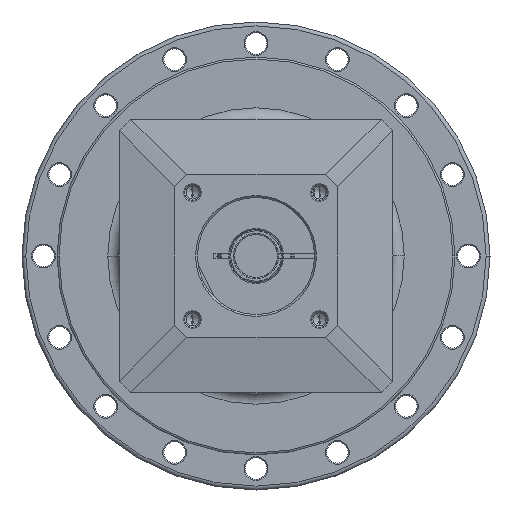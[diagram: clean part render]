
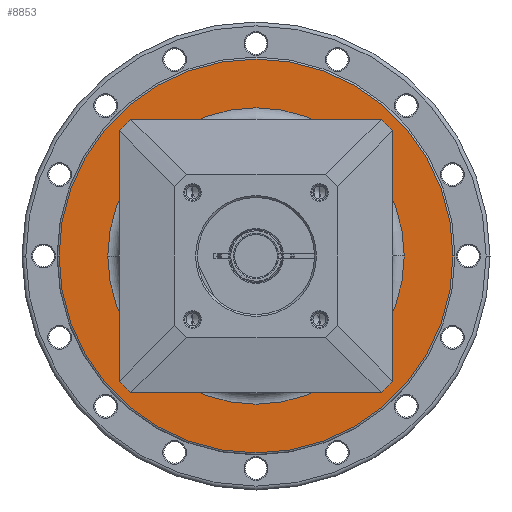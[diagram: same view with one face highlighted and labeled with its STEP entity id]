
A CAD part, left-side view. The second image highlights one B-rep face of the part: STEP entity #8853.
In plain terms, the highlighted planar face has unit normal (-1, 0, 0) as drawn and (1, 0, 0) by its records, which use the part's own axes.
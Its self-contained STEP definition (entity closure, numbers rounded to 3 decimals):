
#8406=CARTESIAN_POINT('',(-33.5,0.,0.));
#8407=DIRECTION('',(-1.,0.,0.));
#8408=DIRECTION('',(0.,-1.,0.));
#8409=AXIS2_PLACEMENT_3D('',#8406,#8407,#8408);
#8411=CARTESIAN_POINT('',(-33.5,0.,0.));
#8412=DIRECTION('',(-1.,0.,0.));
#8413=DIRECTION('',(0.,1.,0.));
#8414=AXIS2_PLACEMENT_3D('',#8411,#8412,#8413);
#8416=CARTESIAN_POINT('',(-33.5,0.,0.));
#8417=DIRECTION('',(-1.,0.,0.));
#8418=DIRECTION('',(0.,-1.,0.));
#8419=AXIS2_PLACEMENT_3D('',#8416,#8417,#8418);
#8421=CARTESIAN_POINT('',(-33.5,0.,0.));
#8422=DIRECTION('',(-1.,0.,0.));
#8423=DIRECTION('',(0.,1.,0.));
#8424=AXIS2_PLACEMENT_3D('',#8421,#8422,#8423);
#8630=CARTESIAN_POINT('',(-33.5,-50.5,0.));
#8631=CARTESIAN_POINT('',(-33.5,50.5,0.));
#8632=VERTEX_POINT('',#8630);
#8633=VERTEX_POINT('',#8631);
#8650=CARTESIAN_POINT('',(-33.5,-38.,0.));
#8651=CARTESIAN_POINT('',(-33.5,38.,0.));
#8652=VERTEX_POINT('',#8650);
#8653=VERTEX_POINT('',#8651);
#8838=CARTESIAN_POINT('',(-33.5,0.,0.));
#8839=DIRECTION('',(1.,0.,0.));
#8840=DIRECTION('',(0.,-1.,0.));
#8841=AXIS2_PLACEMENT_3D('',#8838,#8839,#8840);
#8842=PLANE('',#8841);
#8844=ORIENTED_EDGE('',*,*,#8843,.T.);
#8846=ORIENTED_EDGE('',*,*,#8845,.T.);
#8847=EDGE_LOOP('',(#8844,#8846));
#8848=FACE_OUTER_BOUND('',#8847,.F.);
#8849=ORIENTED_EDGE('',*,*,#8832,.F.);
#8850=ORIENTED_EDGE('',*,*,#8818,.F.);
#8851=EDGE_LOOP('',(#8849,#8850));
#8852=FACE_BOUND('',#8851,.F.);
#8853=ADVANCED_FACE('',(#8848,#8852),#8842,.T.);
#8410=CIRCLE('',#8409,38.);
#8415=CIRCLE('',#8414,38.);
#8420=CIRCLE('',#8419,50.5);
#8425=CIRCLE('',#8424,50.5);
#8818=EDGE_CURVE('',#8653,#8652,#8415,.T.);
#8832=EDGE_CURVE('',#8652,#8653,#8410,.T.);
#8843=EDGE_CURVE('',#8632,#8633,#8420,.T.);
#8845=EDGE_CURVE('',#8633,#8632,#8425,.T.);
